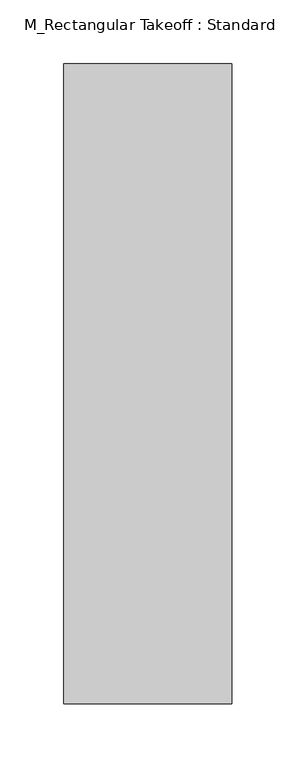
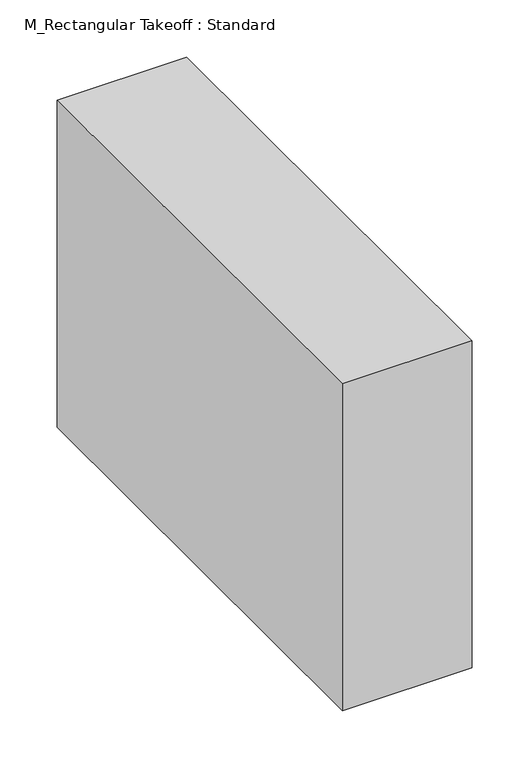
"""IFC4 building model written with IfcOpenShell, lengths in millimetres: duct fitting geometry, M_Rectangular Takeoff : Standard."""

from ifc_helpers import new_model, si_unit, frame, origin, place, context, project, spatial, polyline, outline, extrude, source, transform, mapped, element, save


def m_rectangular_takeoff_standard_f515ab57(model_context):
    return source(origin(), model_context, "Body", "SweptSolid", [
        extrude(outline(polyline([(-6.096, 250.0), (125.0, 250.0), (125.0, -250.0), (-6.096, -250.0), (-6.096, 250.0)])), frame((0.0, 0.0, -175.0), z_axis=(0.0, 0.0, 1.0), x_axis=(1.0, 0.0, 0.0)), (0.0, 0.0, 1.0), 350.0),
        extrude(outline(polyline([(-6.096, 250.0), (125.0, 250.0), (125.0, -250.0), (-6.096, -250.0), (-6.096, 250.0)])), frame((0.0, 0.0, -175.0), z_axis=(0.0, 0.0, 1.0), x_axis=(1.0, 0.0, 0.0)), (0.0, 0.0, 1.0), 350.0),
        extrude(outline(polyline([(-6.096, 250.0), (125.0, 250.0), (125.0, -250.0), (-6.096, -250.0), (-6.096, 250.0)])), frame((0.0, 0.0, -175.0), z_axis=(0.0, 0.0, 1.0), x_axis=(1.0, 0.0, 0.0)), (0.0, 0.0, 1.0), 350.0),
    ])


if __name__ == "__main__":
    model = new_model("IFC4")
    model_context = context("Model", 3, world=origin())
    ifc_project = project(units=[si_unit("LENGTHUNIT", "METRE", prefix="MILLI")], contexts=[model_context])
    site = spatial("IfcSite", under=ifc_project)
    building = spatial("IfcBuilding", under=site)
    placement = place(None, origin())
    m_rectangular_takeoff_standard_shape = m_rectangular_takeoff_standard_f515ab57(model_context)
    element("IfcDuctFitting", 1, ObjectType="M_Rectangular Takeoff : Standard", at=placement, inside=building, context=model_context, shape_type="MappedRepresentation", body=[
        mapped(m_rectangular_takeoff_standard_shape, transform((0.0, 0.0, 0.0), x_axis=(1.0, 0.0, 0.0), y_axis=(0.0, 1.0, 0.0), z_axis=(0.0, 0.0, 1.0))),
    ])
    save(model, "model.ifc")
